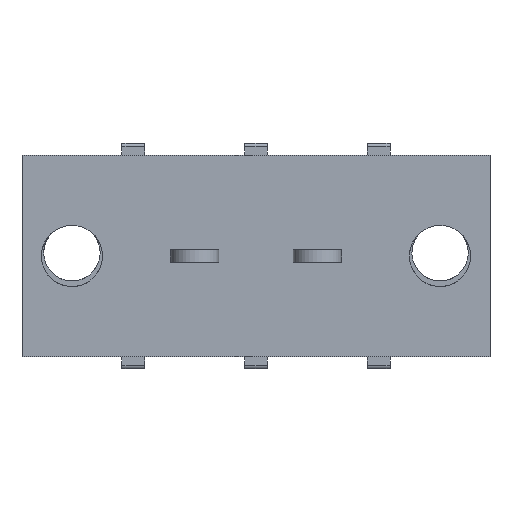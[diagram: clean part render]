
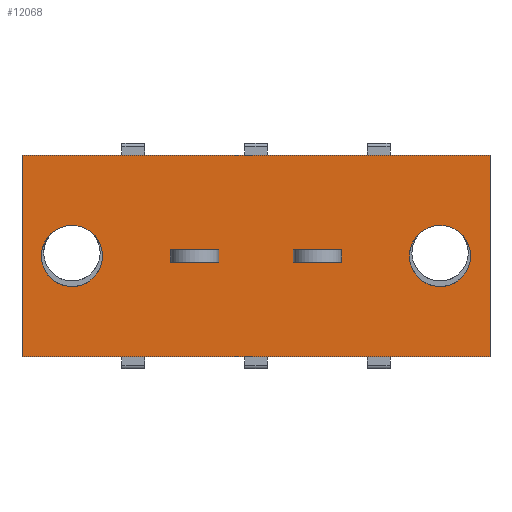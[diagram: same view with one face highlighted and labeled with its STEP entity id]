
A CAD part, front view. The second image highlights one B-rep face of the part: STEP entity #12068.
In plain terms, the highlighted planar face has unit normal (0, -1, 0).
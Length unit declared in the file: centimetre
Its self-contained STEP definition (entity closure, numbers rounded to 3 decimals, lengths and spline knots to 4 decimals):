
#590=CIRCLE('',#20077,0.19);
#682=CIRCLE('',#20342,0.19);
#799=VERTEX_POINT('',#15486);
#800=VERTEX_POINT('',#15487);
#805=VERTEX_POINT('',#15499);
#834=VERTEX_POINT('',#15572);
#1225=VERTEX_POINT('',#17236);
#1226=VERTEX_POINT('',#17238);
#1227=VERTEX_POINT('',#17242);
#1481=VERTEX_POINT('',#18056);
#1482=VERTEX_POINT('',#18057);
#1495=VERTEX_POINT('',#18089);
#1508=VERTEX_POINT('',#18138);
#1549=VERTEX_POINT('',#18260);
#1551=VERTEX_POINT('',#18267);
#1552=VERTEX_POINT('',#18269);
#1992=VECTOR('',#13039,1.);
#1996=VECTOR('',#13048,1.);
#2025=VECTOR('',#13100,1.);
#2035=VECTOR('',#13126,1.);
#2498=VECTOR('',#13767,1.);
#2777=VECTOR('',#14360,1.);
#2792=VECTOR('',#14379,1.);
#2806=VECTOR('',#14430,1.);
#2808=VECTOR('',#14433,1.);
#2856=VECTOR('',#14527,1.);
#2860=VECTOR('',#14534,1.);
#2861=VECTOR('',#14535,1.);
#3372=LINE('',#15485,#1992);
#3376=LINE('',#15498,#1996);
#3405=LINE('',#15571,#2025);
#3415=LINE('',#15599,#2035);
#3878=LINE('',#17237,#2498);
#4157=LINE('',#18055,#2777);
#4172=LINE('',#18088,#2792);
#4186=LINE('',#18137,#2806);
#4188=LINE('',#18141,#2808);
#4236=LINE('',#18259,#2856);
#4240=LINE('',#18268,#2860);
#4241=LINE('',#18270,#2861);
#4823=EDGE_CURVE('',#799,#800,#3372,.T.);
#4829=EDGE_CURVE('',#805,#799,#3376,.T.);
#4865=EDGE_CURVE('',#800,#834,#3405,.T.);
#4879=EDGE_CURVE('',#834,#805,#3415,.T.);
#5454=EDGE_CURVE('',#1226,#1225,#3878,.T.);
#5456=EDGE_CURVE('',#1227,#1227,#590,.T.);
#5839=EDGE_CURVE('',#1481,#1482,#4157,.T.);
#5856=EDGE_CURVE('',#1495,#1481,#4172,.T.);
#5880=EDGE_CURVE('',#1508,#1495,#4186,.T.);
#5882=EDGE_CURVE('',#1482,#1508,#4188,.T.);
#5941=EDGE_CURVE('',#1549,#1225,#4236,.T.);
#5945=EDGE_CURVE('',#1551,#1551,#682,.T.);
#5946=EDGE_CURVE('',#1552,#1226,#4240,.T.);
#5947=EDGE_CURVE('',#1552,#1549,#4241,.T.);
#8989=ORIENTED_EDGE('',*,*,#4829,.T.);
#8990=ORIENTED_EDGE('',*,*,#4823,.T.);
#8991=ORIENTED_EDGE('',*,*,#4865,.T.);
#8992=ORIENTED_EDGE('',*,*,#4879,.T.);
#8993=ORIENTED_EDGE('',*,*,#5456,.T.);
#8994=ORIENTED_EDGE('',*,*,#5945,.T.);
#8995=ORIENTED_EDGE('',*,*,#5856,.F.);
#8996=ORIENTED_EDGE('',*,*,#5880,.F.);
#8997=ORIENTED_EDGE('',*,*,#5882,.F.);
#8998=ORIENTED_EDGE('',*,*,#5839,.F.);
#8999=ORIENTED_EDGE('',*,*,#5946,.T.);
#9000=ORIENTED_EDGE('',*,*,#5454,.T.);
#9001=ORIENTED_EDGE('',*,*,#5941,.F.);
#9002=ORIENTED_EDGE('',*,*,#5947,.F.);
#10612=EDGE_LOOP('',(#8989,#8990,#8991,#8992));
#10613=EDGE_LOOP('',(#8993));
#10614=EDGE_LOOP('',(#8994));
#10615=EDGE_LOOP('',(#8995,#8996,#8997,#8998));
#10616=EDGE_LOOP('',(#8999,#9000,#9001,#9002));
#11366=FACE_BOUND('',#10612,.T.);
#11367=FACE_BOUND('',#10613,.T.);
#11368=FACE_BOUND('',#10614,.T.);
#11369=FACE_BOUND('',#10615,.T.);
#11370=FACE_BOUND('',#10616,.T.);
#12068=ADVANCED_FACE('',(#11366,#11367,#11368,#11369,#11370),#12617,.T.);
#12617=PLANE('',#20341);
#13039=DIRECTION('',(0.,0.,1.));
#13048=DIRECTION('',(-1.,0.,0.));
#13100=DIRECTION('',(1.,0.,0.));
#13126=DIRECTION('',(0.,0.,-1.));
#13767=DIRECTION('',(0.,0.,1.));
#13771=DIRECTION('',(0.,1.,0.));
#13772=DIRECTION('',(0.19,0.,0.));
#14360=DIRECTION('',(0.,0.,1.));
#14379=DIRECTION('',(1.,0.,0.));
#14430=DIRECTION('',(0.,0.,-1.));
#14433=DIRECTION('',(-1.,0.,0.));
#14527=DIRECTION('',(1.,0.,0.));
#14531=DIRECTION('',(0.,-1.,0.));
#14532=DIRECTION('',(0.,1.,0.));
#14533=DIRECTION('',(0.19,0.,0.));
#14534=DIRECTION('',(1.,0.,0.));
#14535=DIRECTION('',(0.,0.,1.));
#15485=CARTESIAN_POINT('',(0.637,-0.53,0.));
#15486=CARTESIAN_POINT('',(0.637,-0.53,-0.04));
#15487=CARTESIAN_POINT('',(0.637,-0.53,0.04));
#15498=CARTESIAN_POINT('',(0.155,-0.53,-0.04));
#15499=CARTESIAN_POINT('',(0.887,-0.53,-0.04));
#15571=CARTESIAN_POINT('',(0.155,-0.53,0.04));
#15572=CARTESIAN_POINT('',(0.887,-0.53,0.04));
#15599=CARTESIAN_POINT('',(0.887,-0.53,0.));
#17236=CARTESIAN_POINT('',(1.834,-0.53,0.625));
#17237=CARTESIAN_POINT('',(1.834,-0.53,-0.625));
#17238=CARTESIAN_POINT('',(1.834,-0.53,-0.625));
#17241=CARTESIAN_POINT('',(1.524,-0.53,0.));
#17242=CARTESIAN_POINT('',(1.334,-0.53,0.));
#18055=CARTESIAN_POINT('',(0.125,-0.53,0.));
#18056=CARTESIAN_POINT('',(0.125,-0.53,-0.04));
#18057=CARTESIAN_POINT('',(0.125,-0.53,0.04));
#18088=CARTESIAN_POINT('',(-0.155,-0.53,-0.04));
#18089=CARTESIAN_POINT('',(-0.125,-0.53,-0.04));
#18137=CARTESIAN_POINT('',(-0.125,-0.53,0.));
#18138=CARTESIAN_POINT('',(-0.125,-0.53,0.04));
#18141=CARTESIAN_POINT('',(-0.155,-0.53,0.04));
#18259=CARTESIAN_POINT('',(-1.072,-0.53,0.625));
#18260=CARTESIAN_POINT('',(-1.072,-0.53,0.625));
#18265=CARTESIAN_POINT('',(-0.452,-0.53,0.));
#18266=CARTESIAN_POINT('',(-0.762,-0.53,0.));
#18267=CARTESIAN_POINT('',(-0.952,-0.53,0.));
#18268=CARTESIAN_POINT('',(-1.072,-0.53,-0.625));
#18269=CARTESIAN_POINT('',(-1.072,-0.53,-0.625));
#18270=CARTESIAN_POINT('',(-1.072,-0.53,-0.625));
#20077=AXIS2_PLACEMENT_3D('',#17241,#13771,#13772);
#20341=AXIS2_PLACEMENT_3D('',#18265,#14531,$);
#20342=AXIS2_PLACEMENT_3D('',#18266,#14532,#14533);
